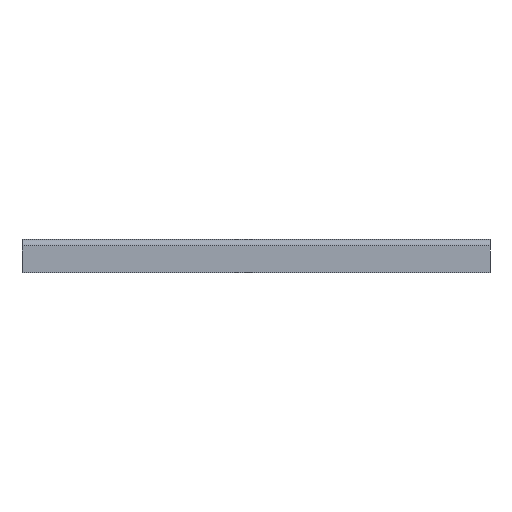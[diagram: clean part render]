
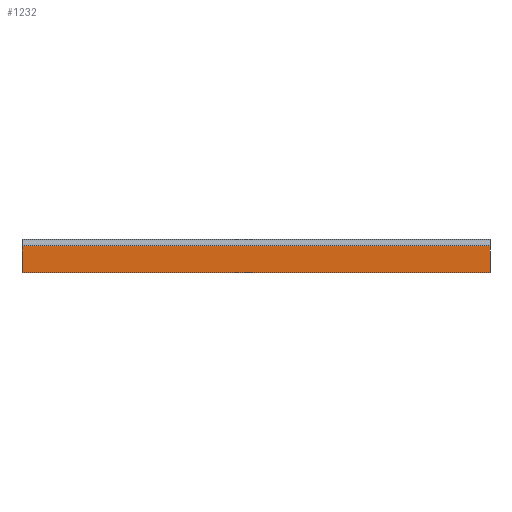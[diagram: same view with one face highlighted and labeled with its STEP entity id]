
A CAD part, top view. The second image highlights one B-rep face of the part: STEP entity #1232.
In plain terms, the highlighted planar face has unit normal (0, 0, 1).
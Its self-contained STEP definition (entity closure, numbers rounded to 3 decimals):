
#44 = PLANE('',#45);
#45 = AXIS2_PLACEMENT_3D('',#46,#47,#48);
#46 = CARTESIAN_POINT('',(5.5,274.061,239.196));
#47 = DIRECTION('',(1.,0.,0.));
#48 = DIRECTION('',(-0.,0.,1.));
#166 = VERTEX_POINT('',#167);
#167 = CARTESIAN_POINT('',(5.5,271.5,460.));
#182 = CYLINDRICAL_SURFACE('',#183,4.);
#183 = AXIS2_PLACEMENT_3D('',#184,#185,#186);
#184 = CARTESIAN_POINT('',(5.5,271.5,456.));
#185 = DIRECTION('',(-1.,-0.,-0.));
#186 = DIRECTION('',(0.,1.,0.));
#194 = EDGE_CURVE('',#166,#195,#197,.T.);
#195 = VERTEX_POINT('',#196);
#196 = CARTESIAN_POINT('',(5.5,255.,460.));
#197 = SURFACE_CURVE('',#198,(#202,#209),.PCURVE_S1.);
#198 = LINE('',#199,#200);
#199 = CARTESIAN_POINT('',(5.5,271.5,460.));
#200 = VECTOR('',#201,1.);
#201 = DIRECTION('',(0.,-1.,0.));
#202 = PCURVE('',#44,#203);
#203 = DEFINITIONAL_REPRESENTATION('',(#204),#208);
#204 = LINE('',#205,#206);
#205 = CARTESIAN_POINT('',(220.804,2.561));
#206 = VECTOR('',#207,1.);
#207 = DIRECTION('',(0.,1.));
#208 = ( GEOMETRIC_REPRESENTATION_CONTEXT(2) 
PARAMETRIC_REPRESENTATION_CONTEXT() REPRESENTATION_CONTEXT('2D SPACE',''
  ) );
#209 = PCURVE('',#210,#215);
#210 = PLANE('',#211);
#211 = AXIS2_PLACEMENT_3D('',#212,#213,#214);
#212 = CARTESIAN_POINT('',(5.5,271.5,460.));
#213 = DIRECTION('',(0.,0.,-1.));
#214 = DIRECTION('',(0.,-1.,0.));
#215 = DEFINITIONAL_REPRESENTATION('',(#216),#220);
#216 = LINE('',#217,#218);
#217 = CARTESIAN_POINT('',(0.,-0.));
#218 = VECTOR('',#219,1.);
#219 = DIRECTION('',(1.,0.));
#220 = ( GEOMETRIC_REPRESENTATION_CONTEXT(2) 
PARAMETRIC_REPRESENTATION_CONTEXT() REPRESENTATION_CONTEXT('2D SPACE',''
  ) );
#238 = PLANE('',#239);
#239 = AXIS2_PLACEMENT_3D('',#240,#241,#242);
#240 = CARTESIAN_POINT('',(5.5,255.,460.));
#241 = DIRECTION('',(-0.,1.,0.));
#242 = DIRECTION('',(0.,0.,-1.));
#520 = PLANE('',#521);
#521 = AXIS2_PLACEMENT_3D('',#522,#523,#524);
#522 = CARTESIAN_POINT('',(294.5,274.061,239.196));
#523 = DIRECTION('',(1.,0.,0.));
#524 = DIRECTION('',(-0.,0.,1.));
#1188 = VERTEX_POINT('',#1189);
#1189 = CARTESIAN_POINT('',(294.5,271.5,460.));
#1211 = EDGE_CURVE('',#166,#1188,#1212,.T.);
#1212 = SURFACE_CURVE('',#1213,(#1217,#1224),.PCURVE_S1.);
#1213 = LINE('',#1214,#1215);
#1214 = CARTESIAN_POINT('',(5.5,271.5,460.));
#1215 = VECTOR('',#1216,1.);
#1216 = DIRECTION('',(1.,0.,0.));
#1217 = PCURVE('',#182,#1218);
#1218 = DEFINITIONAL_REPRESENTATION('',(#1219),#1223);
#1219 = LINE('',#1220,#1221);
#1220 = CARTESIAN_POINT('',(-1.571,0.));
#1221 = VECTOR('',#1222,1.);
#1222 = DIRECTION('',(-0.,-1.));
#1223 = ( GEOMETRIC_REPRESENTATION_CONTEXT(2) 
PARAMETRIC_REPRESENTATION_CONTEXT() REPRESENTATION_CONTEXT('2D SPACE',''
  ) );
#1224 = PCURVE('',#210,#1225);
#1225 = DEFINITIONAL_REPRESENTATION('',(#1226),#1230);
#1226 = LINE('',#1227,#1228);
#1227 = CARTESIAN_POINT('',(0.,-0.));
#1228 = VECTOR('',#1229,1.);
#1229 = DIRECTION('',(0.,-1.));
#1230 = ( GEOMETRIC_REPRESENTATION_CONTEXT(2) 
PARAMETRIC_REPRESENTATION_CONTEXT() REPRESENTATION_CONTEXT('2D SPACE',''
  ) );
#1232 = ADVANCED_FACE('',(#1233),#210,.F.);
#1233 = FACE_BOUND('',#1234,.F.);
#1234 = EDGE_LOOP('',(#1235,#1236,#1259,#1280));
#1235 = ORIENTED_EDGE('',*,*,#1211,.T.);
#1236 = ORIENTED_EDGE('',*,*,#1237,.T.);
#1237 = EDGE_CURVE('',#1188,#1238,#1240,.T.);
#1238 = VERTEX_POINT('',#1239);
#1239 = CARTESIAN_POINT('',(294.5,255.,460.));
#1240 = SURFACE_CURVE('',#1241,(#1245,#1252),.PCURVE_S1.);
#1241 = LINE('',#1242,#1243);
#1242 = CARTESIAN_POINT('',(294.5,271.5,460.));
#1243 = VECTOR('',#1244,1.);
#1244 = DIRECTION('',(0.,-1.,0.));
#1245 = PCURVE('',#210,#1246);
#1246 = DEFINITIONAL_REPRESENTATION('',(#1247),#1251);
#1247 = LINE('',#1248,#1249);
#1248 = CARTESIAN_POINT('',(0.,-289.));
#1249 = VECTOR('',#1250,1.);
#1250 = DIRECTION('',(1.,0.));
#1251 = ( GEOMETRIC_REPRESENTATION_CONTEXT(2) 
PARAMETRIC_REPRESENTATION_CONTEXT() REPRESENTATION_CONTEXT('2D SPACE',''
  ) );
#1252 = PCURVE('',#520,#1253);
#1253 = DEFINITIONAL_REPRESENTATION('',(#1254),#1258);
#1254 = LINE('',#1255,#1256);
#1255 = CARTESIAN_POINT('',(220.804,2.561));
#1256 = VECTOR('',#1257,1.);
#1257 = DIRECTION('',(0.,1.));
#1258 = ( GEOMETRIC_REPRESENTATION_CONTEXT(2) 
PARAMETRIC_REPRESENTATION_CONTEXT() REPRESENTATION_CONTEXT('2D SPACE',''
  ) );
#1259 = ORIENTED_EDGE('',*,*,#1260,.F.);
#1260 = EDGE_CURVE('',#195,#1238,#1261,.T.);
#1261 = SURFACE_CURVE('',#1262,(#1266,#1273),.PCURVE_S1.);
#1262 = LINE('',#1263,#1264);
#1263 = CARTESIAN_POINT('',(5.5,255.,460.));
#1264 = VECTOR('',#1265,1.);
#1265 = DIRECTION('',(1.,0.,0.));
#1266 = PCURVE('',#210,#1267);
#1267 = DEFINITIONAL_REPRESENTATION('',(#1268),#1272);
#1268 = LINE('',#1269,#1270);
#1269 = CARTESIAN_POINT('',(16.5,0.));
#1270 = VECTOR('',#1271,1.);
#1271 = DIRECTION('',(0.,-1.));
#1272 = ( GEOMETRIC_REPRESENTATION_CONTEXT(2) 
PARAMETRIC_REPRESENTATION_CONTEXT() REPRESENTATION_CONTEXT('2D SPACE',''
  ) );
#1273 = PCURVE('',#238,#1274);
#1274 = DEFINITIONAL_REPRESENTATION('',(#1275),#1279);
#1275 = LINE('',#1276,#1277);
#1276 = CARTESIAN_POINT('',(0.,0.));
#1277 = VECTOR('',#1278,1.);
#1278 = DIRECTION('',(0.,-1.));
#1279 = ( GEOMETRIC_REPRESENTATION_CONTEXT(2) 
PARAMETRIC_REPRESENTATION_CONTEXT() REPRESENTATION_CONTEXT('2D SPACE',''
  ) );
#1280 = ORIENTED_EDGE('',*,*,#194,.F.);
